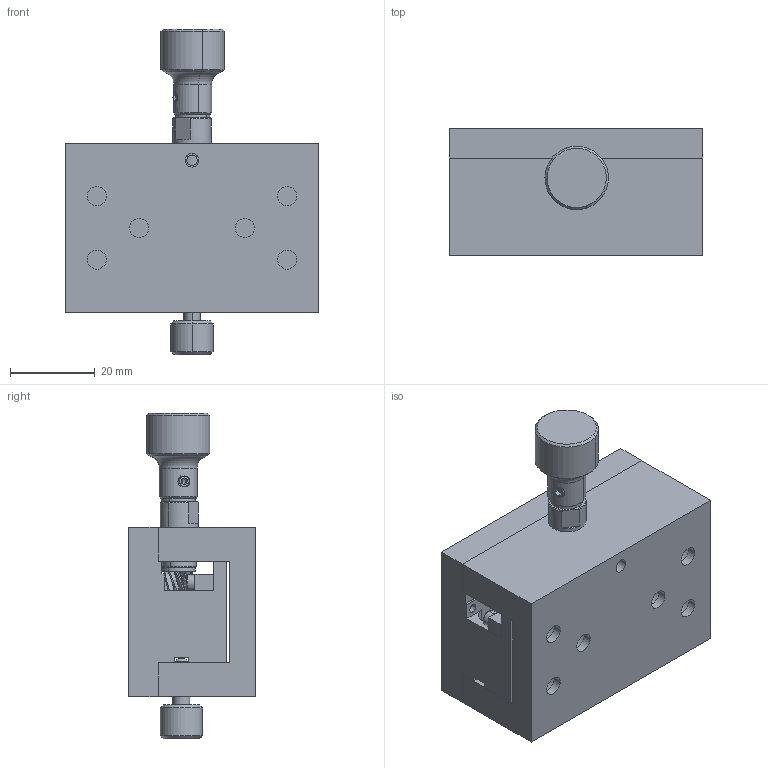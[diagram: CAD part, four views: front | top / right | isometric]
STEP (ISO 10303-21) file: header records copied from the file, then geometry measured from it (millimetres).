
FILE_DESCRIPTION (( 'STEP AP203' ), '1' );
FILE_NAME ('BKRG60.STEP', '2024-03-04T02:17:14', ( 'China' ), ( 'Microsoft' ), 'SwSTEP 2.0', 'SolidWorks 2024', '' );
FILE_SCHEMA (( 'CONFIG_CONTROL_DESIGN' ));
Products named in the file (1): BKRG60
Bounding box: 60 x 30 x 77 mm (x, y, z)
Volume: 67489.4 mm3; surface area: 26933.6 mm2
Topology: 13 solids, 13 shells, 490 faces, 1254 edges, 794 vertices
Faces by surface type: plane 262, cylinder 118, cone 71, bspline 33, torus 6
Entity records: 98919 total; most frequent: CARTESIAN_POINT 87208, ORIENTED_EDGE 2464, DIRECTION 2351, EDGE_CURVE 1232, VERTEX_POINT 794, VECTOR 785, LINE 785, AXIS2_PLACEMENT_3D 783
